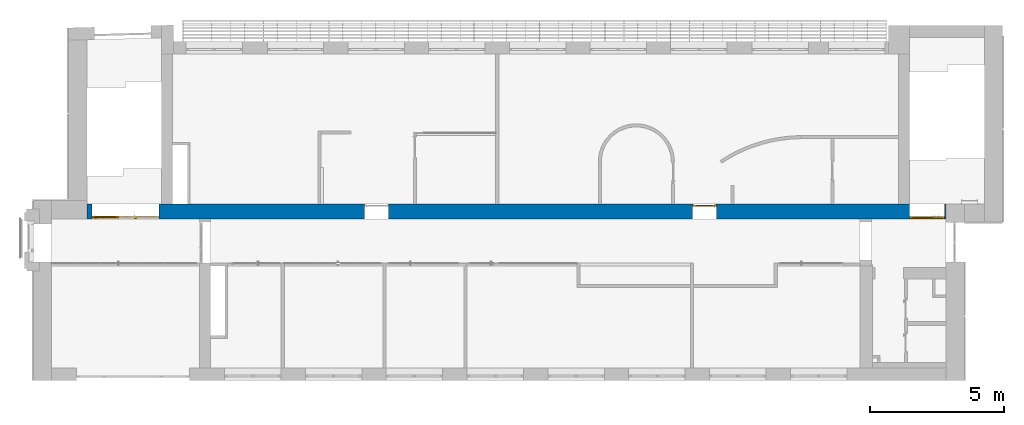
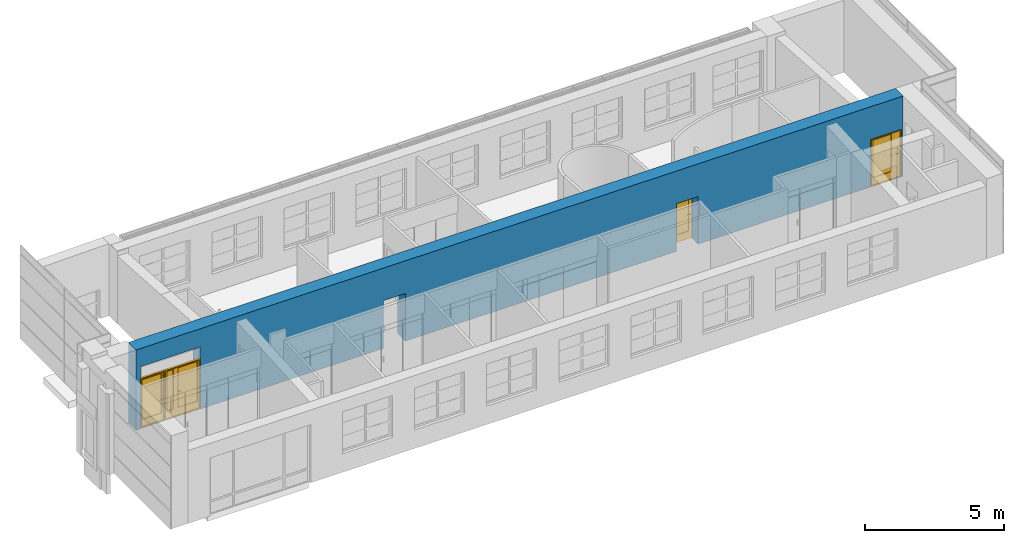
# One storey, part 31 of 46: 4 doors, 1 wall, 6 openings.
"""IFC2X3 building model written with IfcOpenShell, lengths in millimetres."""

from ifc_helpers import new_model, entity, si_unit, converted_unit, derived_unit, direction, frame, frame_2d, origin, place, context, subcontext, project, spatial, rectangle, extrude, faceted_brep, source, transform, mapped, material, material_list, layer, layer_set, layer_usage, type_object, type_shapes, element, fill, save


model = new_model("IFC2X3")

# Units and contexts
model_context = context("Model", 3, precision=0.01, world=origin(), true_north=direction((6.12303176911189e-17, 1.0)))
body_context = subcontext(model_context, "Body", "Model", "MODEL_VIEW")
ifc_project = project(units=[si_unit("LENGTHUNIT", "METRE", prefix="MILLI"), si_unit("AREAUNIT", "SQUARE_METRE"), si_unit("VOLUMEUNIT", "CUBIC_METRE"), converted_unit("PLANEANGLEUNIT", "DEGREE", entity("IfcRatioMeasure", 0.0174532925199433), si_unit("PLANEANGLEUNIT", "RADIAN"), dimensions=[0, 0, 0, 0, 0, 0, 0]), si_unit("MASSUNIT", "GRAM", prefix="KILO"), derived_unit("MASSDENSITYUNIT", [(si_unit("MASSUNIT", "GRAM", prefix="KILO"), 1), (si_unit("LENGTHUNIT", "METRE"), -3)]), si_unit("TIMEUNIT", "SECOND"), si_unit("FREQUENCYUNIT", "HERTZ"), si_unit("THERMODYNAMICTEMPERATUREUNIT", "DEGREE_CELSIUS"), derived_unit("THERMALTRANSMITTANCEUNIT", [(si_unit("MASSUNIT", "GRAM", prefix="KILO"), 1), (si_unit("THERMODYNAMICTEMPERATUREUNIT", "KELVIN"), -1), (si_unit("TIMEUNIT", "SECOND"), -3)]), derived_unit("VOLUMETRICFLOWRATEUNIT", [(si_unit("LENGTHUNIT", "METRE"), 3), (si_unit("TIMEUNIT", "SECOND"), -1)]), si_unit("ELECTRICCURRENTUNIT", "AMPERE"), si_unit("ELECTRICVOLTAGEUNIT", "VOLT"), si_unit("POWERUNIT", "WATT"), si_unit("FORCEUNIT", "NEWTON", prefix="KILO"), si_unit("ILLUMINANCEUNIT", "LUX"), si_unit("LUMINOUSFLUXUNIT", "LUMEN"), si_unit("LUMINOUSINTENSITYUNIT", "CANDELA"), derived_unit("USERDEFINED", [(si_unit("MASSUNIT", "GRAM", prefix="KILO"), -1), (si_unit("LENGTHUNIT", "METRE"), -2), (si_unit("TIMEUNIT", "SECOND"), 3), (si_unit("LUMINOUSFLUXUNIT", "LUMEN"), 1)]), derived_unit("LINEARVELOCITYUNIT", [(si_unit("LENGTHUNIT", "METRE"), 1), (si_unit("TIMEUNIT", "SECOND"), -1)]), si_unit("PRESSUREUNIT", "PASCAL"), derived_unit("USERDEFINED", [(si_unit("LENGTHUNIT", "METRE"), -2), (si_unit("MASSUNIT", "GRAM", prefix="KILO"), 1), (si_unit("TIMEUNIT", "SECOND"), -2)])], contexts=[model_context])

# Site, building, storey
site_placement = place(None, frame((-151.875543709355, 2715.0, 0.0)))
site = spatial("IfcSite", under=ifc_project, at=site_placement, Name="Surface", CompositionType="ELEMENT")
building_placement = place(site_placement, origin())
building = spatial("IfcBuilding", under=site, at=building_placement, CompositionType="ELEMENT")
storey_placement = place(building_placement, frame((0.0, 0.0, 10060.0)))
storey = spatial("IfcBuildingStorey", under=building, at=storey_placement, Name="4 korrus", CompositionType="ELEMENT", Elevation=10060.0000000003)

# Wall, openings, doors
ifc_material_1 = material(Name="__Kips GN13_tava")
ifc_layer_1 = layer(ifc_material_1, 20.0)
ifc_material_2 = material(Name="Masonry - Brick")
ifc_layer_2 = layer(ifc_material_2, 510.0)
ifc_layer_3 = layer(ifc_material_1, 20.0)
ifc_layer_set = layer_set([ifc_layer_1, ifc_layer_2, ifc_layer_3], Name="Basic Wall:SS-1")
ifc_layer_usage = layer_usage(ifc_layer_set, "AXIS2", "POSITIVE", -275.0)
wall_type = type_object("IfcWallType", Name="Basic Wall:SS-1", PredefinedType="STANDARD", material=ifc_layer_set)
wall_placement = place(storey_placement, frame((1770.0, 6285.0, 0.0)))
wall = element("IfcWallStandardCase", 1, at=wall_placement, inside=storey, type_object=wall_type, material=ifc_layer_usage, Name="SEIN - 002", ObjectType="Basic Wall:SS-1", context=body_context, shape_type="SweptSolid", body=[
    extrude(rectangle(XDim=31971.6162682, YDim=550.000000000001, at=frame_2d((15985.8081341, 0.0), x_axis=(-1.0, 0.0))), origin(), (0.0, 0.0, 1.0), 3540.0),
])
opening_1_placement = place(wall_placement, frame((23427.3743763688, 275.0, 0.0)))
opening_1 = element("IfcOpeningElement", 2, at=opening_1_placement, cuts=wall, Name="Ühepoolsed:SU-02.:1", ObjectType="Opening", context=body_context, shape_type="SweptSolid", body=[
    extrude(rectangle(XDim=2099.99999999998, YDim=900.0, at=frame_2d((1049.99999999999, 450.0), x_axis=(1.0, 0.0))), frame((0.0, 0.0, 0.0), z_axis=(0.0, -1.0, 0.0), x_axis=(0.0, 0.0, 1.0)), (0.0, 0.0, 1.0), 550.0),
])
opening_2_placement = place(wall_placement, frame((30602.6162682, -275.0, 0.0)))
opening_2 = element("IfcOpeningElement", 3, at=opening_2_placement, cuts=wall, Name="Kahepoolsed:SU-11:1", ObjectType="Opening", context=body_context, shape_type="SweptSolid", body=[
    extrude(rectangle(XDim=2099.99999999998, YDim=1300.0, at=frame_2d((1049.99999999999, 650.0), x_axis=(1.0, 0.0))), frame((0.0, 0.0, 0.0), z_axis=(0.0, 1.0, 0.0), x_axis=(0.0, 0.0, 1.0)), (0.0, 0.0, 1.0), 550.0),
])
opening_3_placement = place(wall_placement, frame((11222.6489830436, 275.0, 0.0)))
element("IfcOpeningElement", 4, at=opening_3_placement, cuts=wall, Name="Ühepoolsed:SU-02:1", ObjectType="Opening", context=body_context, shape_type="SweptSolid", body=[
    extrude(rectangle(XDim=2099.99999999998, YDim=900.0, at=frame_2d((1049.99999999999, 449.999999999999), x_axis=(1.0, 0.0))), frame((0.0, 0.0, 0.0), z_axis=(0.0, -1.0, 0.0), x_axis=(0.0, 0.0, 1.0)), (0.0, 0.0, 1.0), 550.0),
])
opening_4_placement = place(wall_placement, frame((188.767567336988, -275.0, 2200.0)))
element("IfcOpeningElement", 5, at=opening_4_placement, cuts=wall, Name="Ühepoolsed:SU17_ülemine:1", ObjectType="Opening", context=body_context, shape_type="SweptSolid", body=[
    extrude(rectangle(XDim=539.999999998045, YDim=2500.0, at=frame_2d((269.999999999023, 1250.0), x_axis=(1.0, 0.0))), frame((0.0, 0.0, 0.0), z_axis=(0.0, 1.0, 0.0), x_axis=(0.0, 0.0, 1.0)), (0.0, 0.0, 1.0), 550.0),
])
opening_5_placement = place(wall_placement, frame((1188.76756733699, -275.0, 0.0)))
opening_5 = element("IfcOpeningElement", 6, at=opening_5_placement, cuts=wall, Name="Kahepoolsed:SU-17:1", ObjectType="Opening", context=body_context, shape_type="SweptSolid", body=[
    extrude(rectangle(XDim=2199.99999999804, YDim=1500.0, at=frame_2d((1099.99999999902, 750.0), x_axis=(1.0, 0.0))), frame((0.0, 0.0, 0.0), z_axis=(0.0, 1.0, 0.0), x_axis=(0.0, 0.0, 1.0)), (0.0, 0.0, 1.0), 550.0),
])
opening_6_placement = place(wall_placement, frame((188.767567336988, -275.0, 0.0)))
opening_6 = element("IfcOpeningElement", 7, at=opening_6_placement, cuts=wall, Name="Aken ukse kohal:SU-1500_aken:1", ObjectType="Opening", context=body_context, shape_type="SweptSolid", body=[
    extrude(rectangle(XDim=2199.99999999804, YDim=1000.0, at=frame_2d((1099.99999999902, 500.0), x_axis=(1.0, 0.0))), frame((0.0, 0.0, 0.0), z_axis=(0.0, 1.0, 0.0), x_axis=(0.0, 0.0, 1.0)), (0.0, 0.0, 1.0), 550.0),
])
ifc_material_3 = material(Name="_Alumiiniumprofiil - must")
ifc_material_4 = material(Name="__Uks_hele tamm")
ifc_material_5 = material(Name="EP Tavallinen lasi")
ifc_material_list_1 = material_list([ifc_material_3, ifc_material_4, ifc_material_5])
ifc_material_list_2 = material_list([ifc_material_3, ifc_material_4, ifc_material_5])
door_style_1 = type_object("IfcDoorStyle", Name="SU-11", ConstructionType="NOTDEFINED", OperationType="FOLDING_TO_RIGHT", ParameterTakesPrecedence=False, Sizeable=False, material=ifc_material_list_2)
shared_shape_1 = source(origin(), body_context, "Body", "Brep", [
    faceted_brep([(912.5, 0.0, 1100.0), (817.5, 0.0, 1100.0), (817.5, -5.0, 1100.0), (937.5, -5.0, 1100.0), (937.5, 38.0, 1100.0), (912.5, 38.0, 1100.0), (912.5, 0.0, 1075.0), (912.5, 38.0, 1075.0), (937.5, 38.0, 1075.0), (937.5, -5.0, 1075.0), (817.5, -5.0, 1075.0), (817.5, 0.0, 1075.0)], [[[0, 1, 2, 3, 4, 5]], [[6, 7, 8, 9, 10, 11]], [[5, 7, 6, 0]], [[4, 8, 7, 5]], [[3, 9, 8, 4]], [[2, 10, 9, 3]], [[1, 11, 10, 2]], [[0, 6, 11, 1]]]),
    faceted_brep([(900.0, 38.0, 1125.0), (950.0, 38.0, 1125.0), (950.0, 40.0, 1125.0), (900.0, 40.0, 1125.0), (900.0, 38.0, 1005.0), (900.0, 40.0, 1005.0), (950.0, 40.0, 1005.0), (950.0, 38.0, 1005.0)], [[[0, 1, 2, 3]], [[4, 5, 6, 7]], [[3, 5, 4, 0]], [[2, 6, 5, 3]], [[1, 7, 6, 2]], [[0, 4, 7, 1]]]),
    faceted_brep([(912.499999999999, 130.0, 1100.0), (912.499999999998, 92.0, 1100.0), (937.499999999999, 92.0, 1100.0), (937.499999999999, 135.0, 1100.0), (817.499999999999, 135.0, 1100.0), (817.499999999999, 130.0, 1100.0), (912.499999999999, 130.0, 1075.0), (817.499999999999, 130.0, 1075.0), (817.499999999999, 135.0, 1075.0), (937.499999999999, 135.0, 1075.0), (937.499999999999, 92.0, 1075.0), (912.499999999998, 92.0, 1075.0)], [[[0, 1, 2, 3, 4, 5]], [[6, 7, 8, 9, 10, 11]], [[1, 0, 6, 11]], [[2, 1, 11, 10]], [[3, 2, 10, 9]], [[4, 3, 9, 8]], [[5, 4, 8, 7]], [[0, 5, 7, 6]]]),
    faceted_brep([(900.0, 92.0, 1125.0), (900.0, 90.0, 1125.0), (950.0, 90.0, 1125.0), (950.0, 92.0, 1125.0), (900.0, 92.0, 1005.0), (950.0, 92.0, 1005.0), (950.0, 90.0, 1005.0), (900.0, 90.0, 1005.0)], [[[0, 1, 2, 3]], [[4, 5, 6, 7]], [[1, 0, 4, 7]], [[2, 1, 7, 6]], [[3, 2, 6, 5]], [[0, 3, 5, 4]]]),
    faceted_brep([(1087.5, 0.0, 1100.0), (1087.5, 38.0, 1100.0), (1062.5, 38.0, 1100.0), (1062.5, -5.0, 1100.0), (1182.5, -5.0, 1100.0), (1182.5, 0.0, 1100.0), (1087.5, 0.0, 1075.0), (1182.5, 0.0, 1075.0), (1182.5, -5.0, 1075.0), (1062.5, -5.0, 1075.0), (1062.5, 38.0, 1075.0), (1087.5, 38.0, 1075.0)], [[[0, 1, 2, 3, 4, 5]], [[6, 7, 8, 9, 10, 11]], [[1, 0, 6, 11]], [[2, 1, 11, 10]], [[3, 2, 10, 9]], [[4, 3, 9, 8]], [[5, 4, 8, 7]], [[0, 5, 7, 6]]]),
    faceted_brep([(1100.0, 38.0, 1125.0), (1100.0, 40.0, 1125.0), (1050.0, 40.0, 1125.0), (1050.0, 38.0, 1125.0), (1100.0, 38.0, 1005.0), (1050.0, 38.0, 1005.0), (1050.0, 40.0, 1005.0), (1100.0, 40.0, 1005.0)], [[[0, 1, 2, 3]], [[4, 5, 6, 7]], [[1, 0, 4, 7]], [[2, 1, 7, 6]], [[3, 2, 6, 5]], [[0, 3, 5, 4]]]),
    faceted_brep([(1087.5, 130.0, 1100.0), (1182.5, 130.0, 1100.0), (1182.5, 135.0, 1100.0), (1062.5, 135.0, 1100.0), (1062.5, 92.0, 1100.0), (1087.5, 92.0, 1100.0), (1087.5, 130.0, 1075.0), (1087.5, 92.0, 1075.0), (1062.5, 92.0, 1075.0), (1062.5, 135.0, 1075.0), (1182.5, 135.0, 1075.0), (1182.5, 130.0, 1075.0)], [[[0, 1, 2, 3, 4, 5]], [[6, 7, 8, 9, 10, 11]], [[5, 7, 6, 0]], [[4, 8, 7, 5]], [[3, 9, 8, 4]], [[2, 10, 9, 3]], [[1, 11, 10, 2]], [[0, 6, 11, 1]]]),
    faceted_brep([(1100.0, 92.0, 1125.0), (1050.0, 92.0, 1125.0), (1050.0, 90.0, 1125.0), (1100.0, 90.0, 1125.0), (1100.0, 92.0, 1005.0), (1100.0, 90.0, 1005.0), (1050.0, 90.0, 1005.0), (1050.0, 92.0, 1005.0)], [[[0, 1, 2, 3]], [[4, 5, 6, 7]], [[3, 5, 4, 0]], [[2, 6, 5, 3]], [[1, 7, 6, 2]], [[0, 4, 7, 1]]]),
    faceted_brep([(1260.0, 0.0, 30.0), (1260.0, 0.0, 0.0), (1260.0, 40.0, 0.0), (1260.0, 40.0, 20.0), (1260.0, 40.0, 30.0), (40.0, 0.0, 30.0), (40.0, 40.0, 30.0), (40.0, 40.0, 20.0), (40.0, 40.0, 0.0), (40.0, 0.0, 0.0), (25.0, 40.0, 0.0), (25.0, 90.0, 0.0), (1275.0, 90.0, 0.0), (1275.0, 40.0, 0.0), (1275.0, 90.0, 20.0), (1275.0, 40.0, 20.0), (25.0, 90.0, 20.0), (25.0, 40.0, 20.0)], [[[0, 1, 2, 3, 4]], [[5, 6, 7, 8, 9]], [[1, 0, 5, 9]], [[2, 1, 9, 8, 10, 11, 12, 13]], [[6, 4, 3, 7]], [[0, 4, 6, 5]], [[14, 15, 13, 12]], [[16, 11, 10, 17]], [[15, 14, 16, 17, 7, 3]], [[13, 15, 3, 2]], [[14, 12, 11, 16]], [[17, 10, 8, 7]]]),
    faceted_brep([(1300.0, 0.0, 0.0), (1260.0, 0.0, 0.0), (1260.0, 40.0, 0.0), (1275.0, 40.0, 0.0), (1275.0, 90.0, 0.0), (1300.0, 90.0, 0.0), (1300.0, 0.0, 2100.0), (0.0, 0.0, 2100.0), (0.0, 0.0, 0.0), (40.0, 0.0, 0.0), (40.0, 0.0, 2060.0), (1260.0, 0.0, 2060.0), (1260.0, 40.0, 2060.0), (40.0, 40.0, 2060.0), (40.0, 40.0, 0.0), (25.0, 40.0, 0.0), (25.0, 40.0, 2075.0), (1275.0, 40.0, 2075.0), (1275.0, 90.0, 2075.0), (25.0, 90.0, 2075.0), (25.0, 90.0, 0.0), (0.0, 90.0, 0.0), (0.0, 90.0, 2100.0), (1300.0, 90.0, 2100.0)], [[[0, 1, 2, 3, 4, 5]], [[1, 0, 6, 7, 8, 9, 10, 11]], [[2, 1, 11, 12]], [[3, 2, 12, 13, 14, 15, 16, 17]], [[4, 3, 17, 18]], [[5, 4, 18, 19, 20, 21, 22, 23]], [[0, 5, 23, 6]], [[8, 7, 22, 21]], [[9, 8, 21, 20, 15, 14]], [[10, 9, 14, 13]], [[16, 15, 20, 19]], [[11, 10, 13, 12]], [[17, 16, 19, 18]], [[7, 6, 23, 22]]]),
    faceted_brep([(1149.0, 90.0, 2000.0), (1149.0, 40.0, 2000.0), (1149.0, 40.0, 1990.0), (1149.0, 90.0, 1990.0), (1150.0, 40.0, 1990.0), (1150.0, 90.0, 1990.0), (1150.0, 40.0, 2000.0), (1150.0, 90.0, 2000.0), (1275.0, 40.0, 2075.0), (1000.0, 40.0, 2075.0), (1000.0, 40.0, 20.0), (1275.0, 40.0, 20.0), (1275.0, 90.0, 2075.0), (1275.0, 90.0, 20.0), (1000.0, 90.0, 20.0), (1000.0, 90.0, 2075.0)], [[[0, 1, 2, 3]], [[3, 2, 4, 5]], [[5, 4, 6, 7]], [[1, 0, 7, 6]], [[2, 1, 6, 4], [8, 9, 10, 11]], [[0, 3, 5, 7], [12, 13, 14, 15]], [[9, 8, 12, 15]], [[10, 9, 15, 14]], [[11, 10, 14, 13]], [[8, 11, 13, 12]]], outer=[[True], [True], [True], [True], [False, True], [False, True], [True], [True], [True], [True]]),
    faceted_brep([(125.0, 55.0, 350.0), (900.0, 55.0, 350.0), (900.0, 55.0, 2000.0), (125.0, 55.0, 2000.0), (125.0, 75.0, 350.0), (125.0, 75.0, 2000.0), (900.0, 75.0, 2000.0), (900.0, 75.0, 350.0)], [[[0, 1, 2, 3]], [[4, 5, 6, 7]], [[1, 0, 4, 7]], [[2, 1, 7, 6]], [[3, 2, 6, 5]], [[0, 3, 5, 4]]]),
    faceted_brep([(1000.0, 40.0, 2075.0), (25.0, 40.0, 2075.0), (25.0, 40.0, 20.0), (1000.0, 40.0, 20.0), (125.0, 40.0, 350.0), (125.0, 40.0, 2000.0), (900.0, 40.0, 2000.0), (900.0, 40.0, 350.0), (1000.0, 90.0, 2075.0), (1000.0, 90.0, 20.0), (25.0, 90.0, 20.0), (25.0, 90.0, 2075.0), (125.0, 90.0, 2000.0), (125.0, 90.0, 350.0), (900.0, 90.0, 350.0), (900.0, 90.0, 2000.0)], [[[0, 1, 2, 3], [4, 5, 6, 7]], [[8, 9, 10, 11], [12, 13, 14, 15]], [[1, 0, 8, 11]], [[2, 1, 11, 10]], [[3, 2, 10, 9]], [[0, 3, 9, 8]], [[12, 5, 4, 13]], [[13, 4, 7, 14]], [[14, 7, 6, 15]], [[5, 12, 15, 6]]]),
])
type_shapes(door_style_1, [shared_shape_1])
door_1_placement = place(opening_2_placement, origin())
door_1 = element("IfcDoor", 8, at=door_1_placement, inside=storey, type_object=door_style_1, material=ifc_material_list_1, Name="Kahepoolsed:SU-11", ObjectType="SU-11", OverallHeight=2099.99999999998, OverallWidth=1300.0, context=body_context, shape_type="MappedRepresentation", body=[
    mapped(shared_shape_1, transform((0.0, 0.0, 0.0), scale=1.0)),
])
fill(opening_2, door_1)
ifc_material_6 = material(Name="Glass")
ifc_material_list_3 = material_list([ifc_material_3, ifc_material_4, ifc_material_6])
ifc_material_list_4 = material_list([ifc_material_3, ifc_material_4, ifc_material_6])
door_style_2 = type_object("IfcDoorStyle", Name="SU-02.", ConstructionType="NOTDEFINED", OperationType="FOLDING_TO_LEFT", ParameterTakesPrecedence=False, Sizeable=False, material=ifc_material_list_4)
shared_shape_2 = source(origin(), body_context, "Body", "Brep", [
    faceted_brep([(100.0, 0.0, 1112.5), (100.0, 38.0, 1112.5), (75.0, 38.0, 1112.5), (75.0, -5.0, 1112.5), (195.0, -5.0, 1112.5), (195.0, 0.0, 1112.5), (100.0, 0.0, 1087.5), (195.0, 0.0, 1087.5), (195.0, -5.0, 1087.5), (75.0, -5.0, 1087.5), (75.0, 38.0, 1087.5), (100.0, 38.0, 1087.5)], [[[0, 1, 2, 3, 4, 5]], [[6, 7, 8, 9, 10, 11]], [[1, 0, 6, 11]], [[2, 1, 11, 10]], [[3, 2, 10, 9]], [[4, 3, 9, 8]], [[5, 4, 8, 7]], [[0, 5, 7, 6]]]),
    faceted_brep([(112.500000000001, 38.0, 1137.5), (112.500000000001, 40.0, 1137.5), (62.5000000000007, 40.0, 1137.5), (62.5000000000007, 38.0, 1137.5), (112.500000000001, 38.0, 1017.5), (62.5000000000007, 38.0, 1017.5), (62.5000000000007, 40.0, 1017.5), (112.500000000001, 40.0, 1017.5)], [[[0, 1, 2, 3]], [[4, 5, 6, 7]], [[1, 0, 4, 7]], [[2, 1, 7, 6]], [[3, 2, 6, 5]], [[0, 3, 5, 4]]]),
    faceted_brep([(100.0, 130.0, 1112.5), (195.0, 130.0, 1112.5), (195.0, 135.0, 1112.5), (75.0, 135.0, 1112.5), (75.0, 92.0, 1112.5), (100.0, 92.0, 1112.5), (100.0, 130.0, 1087.5), (100.0, 92.0, 1087.5), (75.0, 92.0, 1087.5), (75.0, 135.0, 1087.5), (195.0, 135.0, 1087.5), (195.0, 130.0, 1087.5)], [[[0, 1, 2, 3, 4, 5]], [[6, 7, 8, 9, 10, 11]], [[5, 7, 6, 0]], [[4, 8, 7, 5]], [[3, 9, 8, 4]], [[2, 10, 9, 3]], [[1, 11, 10, 2]], [[0, 6, 11, 1]]]),
    faceted_brep([(112.500000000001, 92.0, 1137.5), (62.5000000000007, 92.0, 1137.5), (62.5000000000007, 90.0, 1137.5), (112.500000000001, 90.0, 1137.5), (112.500000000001, 92.0, 1017.5), (112.500000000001, 90.0, 1017.5), (62.5000000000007, 90.0, 1017.5), (62.5000000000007, 92.0, 1017.5)], [[[0, 1, 2, 3]], [[4, 5, 6, 7]], [[3, 5, 4, 0]], [[2, 6, 5, 3]], [[1, 7, 6, 2]], [[0, 4, 7, 1]]]),
    faceted_brep([(900.0, 0.0, 0.0), (860.0, 0.0, 0.0), (860.0, 40.0, 0.0), (875.0, 40.0, 0.0), (875.0, 90.0, 0.0), (900.0, 90.0, 0.0), (900.0, 0.0, 2100.0), (0.0, 0.0, 2100.0), (0.0, 0.0, 0.0), (40.0, 0.0, 0.0), (40.0, 0.0, 2060.0), (860.0, 0.0, 2060.0), (860.0, 40.0, 2060.0), (40.0, 40.0, 2060.0), (40.0, 40.0, 0.0), (25.0, 40.0, 0.0), (25.0, 40.0, 2075.0), (875.0, 40.0, 2075.0), (875.0, 90.0, 2075.0), (25.0, 90.0, 2075.0), (25.0, 90.0, 0.0), (0.0, 90.0, 0.0), (0.0, 90.0, 2100.0), (900.0, 90.0, 2100.0)], [[[0, 1, 2, 3, 4, 5]], [[1, 0, 6, 7, 8, 9, 10, 11]], [[2, 1, 11, 12]], [[3, 2, 12, 13, 14, 15, 16, 17]], [[4, 3, 17, 18]], [[5, 4, 18, 19, 20, 21, 22, 23]], [[0, 5, 23, 6]], [[8, 7, 22, 21]], [[9, 8, 21, 20, 15, 14]], [[10, 9, 14, 13]], [[16, 15, 20, 19]], [[11, 10, 13, 12]], [[17, 16, 19, 18]], [[7, 6, 23, 22]]]),
    faceted_brep([(760.0, 55.0, 350.0), (760.0, 55.0, 1960.0), (140.0, 55.0, 1960.0), (140.0, 55.0, 350.0), (760.0, 75.0, 350.0), (140.0, 75.0, 350.0), (140.0, 75.0, 1960.0), (760.0, 75.0, 1960.0)], [[[0, 1, 2, 3]], [[4, 5, 6, 7]], [[1, 0, 4, 7]], [[2, 1, 7, 6]], [[3, 2, 6, 5]], [[0, 3, 5, 4]]]),
    faceted_brep([(875.0, 40.0, 20.0), (875.0, 40.0, 2075.0), (25.0, 40.0, 2075.0), (25.0, 40.0, 20.0), (140.0, 40.0, 350.0), (140.0, 40.0, 1960.0), (760.0, 40.0, 1960.0), (760.0, 40.0, 350.0), (875.0, 90.0, 20.0), (25.0, 90.0, 20.0), (25.0, 90.0, 2075.0), (875.0, 90.0, 2075.0), (140.0, 90.0, 1960.0), (140.0, 90.0, 350.0), (760.0, 90.0, 350.0), (760.0, 90.0, 1960.0)], [[[0, 1, 2, 3], [4, 5, 6, 7]], [[8, 9, 10, 11], [12, 13, 14, 15]], [[1, 0, 8, 11]], [[2, 1, 11, 10]], [[3, 2, 10, 9]], [[0, 3, 9, 8]], [[12, 5, 4, 13]], [[13, 4, 7, 14]], [[14, 7, 6, 15]], [[5, 12, 15, 6]]]),
])
type_shapes(door_style_2, [shared_shape_2])
door_2_placement = place(opening_1_placement, frame((0.0, 0.0, 0.0), z_axis=(0.0, 0.0, 1.0), x_axis=(-1.0, 0.0, 0.0)))
door_2 = element("IfcDoor", 9, at=door_2_placement, inside=storey, type_object=door_style_2, material=ifc_material_list_3, Name="Ühepoolsed:SU-02.", ObjectType="SU-02.", OverallHeight=2099.99999999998, OverallWidth=899.999999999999, context=body_context, shape_type="MappedRepresentation", body=[
    mapped(shared_shape_2, transform((0.0, 0.0, 0.0), scale=1.0)),
])
fill(opening_1, door_2)
ifc_material_list_5 = material_list([ifc_material_4, ifc_material_5])
ifc_material_list_6 = material_list([ifc_material_4, ifc_material_5])
door_style_3 = type_object("IfcDoorStyle", Name="SU-1500_aken", ConstructionType="NOTDEFINED", OperationType="SINGLE_SWING_RIGHT", ParameterTakesPrecedence=False, Sizeable=False, material=ifc_material_list_6)
shared_shape_3 = source(origin(), body_context, "Body", "Brep", [
    faceted_brep([(960.0, 50.0, 40.0), (960.0, 10.0, 40.0), (960.0, 10.0, 2160.0), (960.0, 50.0, 2160.0), (975.0, 100.0, 25.0), (975.0, 50.0, 25.0), (975.0, 50.0, 2175.0), (975.0, 100.0, 2175.0), (1000.0, 10.0, 0.0), (1000.0, 100.0, 0.0), (1000.0, 100.0, 2200.0), (1000.0, 10.0, 2200.0), (40.0, 10.0, 2160.0), (40.0, 50.0, 2160.0), (25.0, 50.0, 2175.0), (25.0, 100.0, 2175.0), (0.0, 100.0, 2200.0), (0.0, 10.0, 2200.0), (40.0, 10.0, 40.0), (40.0, 50.0, 40.0), (25.0, 50.0, 25.0), (25.0, 100.0, 25.0), (0.0, 100.0, 0.0), (0.0, 10.0, 0.0)], [[[0, 1, 2, 3]], [[4, 5, 6, 7]], [[8, 9, 10, 11]], [[3, 2, 12, 13]], [[7, 6, 14, 15]], [[11, 10, 16, 17]], [[13, 12, 18, 19]], [[15, 14, 20, 21]], [[17, 16, 22, 23]], [[2, 1, 18, 12], [8, 11, 17, 23]], [[1, 0, 19, 18]], [[0, 3, 13, 19], [6, 5, 20, 14]], [[5, 4, 21, 20]], [[4, 7, 15, 21], [10, 9, 22, 16]], [[9, 8, 23, 22]]], outer=[[True], [True], [True], [True], [True], [True], [True], [True], [True], [False, True], [True], [False, True], [True], [False, True], [True]]),
    faceted_brep([(900.0, 65.0, 350.0), (900.0, 65.0, 2100.0), (100.0, 65.0, 2100.0), (100.0, 65.0, 350.0), (900.0, 85.0, 350.0), (100.0, 85.0, 350.0), (100.0, 85.0, 2100.0), (900.0, 85.0, 2100.0)], [[[0, 1, 2, 3]], [[4, 5, 6, 7]], [[1, 0, 4, 7]], [[2, 1, 7, 6]], [[3, 2, 6, 5]], [[0, 3, 5, 4]]]),
    faceted_brep([(975.0, 50.0, 20.0), (975.0, 50.0, 2175.0), (25.0, 50.0, 2175.0), (25.0, 50.0, 20.0), (100.0, 50.0, 350.0), (100.0, 50.0, 2100.0), (900.0, 50.0, 2100.0), (900.0, 50.0, 350.0), (975.0, 100.0, 20.0), (25.0, 100.0, 20.0), (25.0, 100.0, 2175.0), (975.0, 100.0, 2175.0), (100.0, 100.0, 2100.0), (100.0, 100.0, 350.0), (900.0, 100.0, 350.0), (900.0, 100.0, 2100.0)], [[[0, 1, 2, 3], [4, 5, 6, 7]], [[8, 9, 10, 11], [12, 13, 14, 15]], [[1, 0, 8, 11]], [[2, 1, 11, 10]], [[3, 2, 10, 9]], [[0, 3, 9, 8]], [[12, 5, 4, 13]], [[13, 4, 7, 14]], [[14, 7, 6, 15]], [[5, 12, 15, 6]]]),
])
type_shapes(door_style_3, [shared_shape_3])
door_3_placement = place(opening_6_placement, origin())
door_3 = element("IfcDoor", 10, at=door_3_placement, inside=storey, type_object=door_style_3, material=ifc_material_list_5, Name="Aken ukse kohal:SU-1500_aken", ObjectType="SU-1500_aken", OverallHeight=2199.99999999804, OverallWidth=1000.0, context=body_context, shape_type="MappedRepresentation", body=[
    mapped(shared_shape_3, transform((0.0, 0.0, 0.0), scale=1.0)),
])
fill(opening_6, door_3)
ifc_material_list_7 = material_list([ifc_material_3, ifc_material_4, ifc_material_5])
ifc_material_list_8 = material_list([ifc_material_3, ifc_material_4, ifc_material_5])
door_style_4 = type_object("IfcDoorStyle", Name="SU-17", ConstructionType="NOTDEFINED", OperationType="FOLDING_TO_RIGHT", ParameterTakesPrecedence=False, Sizeable=False, material=ifc_material_list_8)
shared_shape_4 = source(origin(), body_context, "Body", "Brep", [
    faceted_brep([(587.499999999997, 10.0, 1100.0), (587.499999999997, 48.0, 1100.0), (562.499999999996, 48.0, 1100.0), (562.499999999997, 5.0, 1100.0), (682.499999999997, 5.0, 1100.0), (682.499999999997, 10.0, 1100.0), (587.499999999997, 10.0, 1075.0), (682.499999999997, 10.0, 1075.0), (682.499999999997, 5.0, 1075.0), (562.499999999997, 5.0, 1075.0), (562.499999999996, 48.0, 1075.0), (587.499999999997, 48.0, 1075.0)], [[[0, 1, 2, 3, 4, 5]], [[6, 7, 8, 9, 10, 11]], [[1, 0, 6, 11]], [[2, 1, 11, 10]], [[3, 2, 10, 9]], [[4, 3, 9, 8]], [[5, 4, 8, 7]], [[0, 5, 7, 6]]]),
    faceted_brep([(600.0, 48.0, 1125.0), (600.0, 50.0, 1125.0), (550.0, 50.0, 1125.0), (550.0, 48.0, 1125.0), (600.0, 48.0, 1005.0), (550.0, 48.0, 1005.0), (550.0, 50.0, 1005.0), (600.0, 50.0, 1005.0)], [[[0, 1, 2, 3]], [[4, 5, 6, 7]], [[1, 0, 4, 7]], [[2, 1, 7, 6]], [[3, 2, 6, 5]], [[0, 3, 5, 4]]]),
    faceted_brep([(587.499999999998, 140.0, 1100.0), (682.499999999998, 140.0, 1100.0), (682.499999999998, 145.0, 1100.0), (562.499999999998, 145.0, 1100.0), (562.499999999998, 102.0, 1100.0), (587.499999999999, 102.0, 1100.0), (587.499999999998, 140.0, 1075.0), (587.499999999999, 102.0, 1075.0), (562.499999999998, 102.0, 1075.0), (562.499999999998, 145.0, 1075.0), (682.499999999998, 145.0, 1075.0), (682.499999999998, 140.0, 1075.0)], [[[0, 1, 2, 3, 4, 5]], [[6, 7, 8, 9, 10, 11]], [[5, 7, 6, 0]], [[4, 8, 7, 5]], [[3, 9, 8, 4]], [[2, 10, 9, 3]], [[1, 11, 10, 2]], [[0, 6, 11, 1]]]),
    faceted_brep([(600.0, 102.0, 1125.0), (550.0, 102.0, 1125.0), (550.0, 100.0, 1125.0), (600.0, 100.0, 1125.0), (600.0, 102.0, 1005.0), (600.0, 100.0, 1005.0), (550.0, 100.0, 1005.0), (550.0, 102.0, 1005.0)], [[[0, 1, 2, 3]], [[4, 5, 6, 7]], [[3, 5, 4, 0]], [[2, 6, 5, 3]], [[1, 7, 6, 2]], [[0, 4, 7, 1]]]),
    faceted_brep([(1460.0, 10.0, 30.0), (1460.0, 10.0, 0.0), (1460.0, 50.0, 0.0), (1460.0, 50.0, 20.0), (1460.0, 50.0, 30.0), (40.0, 10.0, 30.0), (40.0, 50.0, 30.0), (40.0, 50.0, 20.0), (40.0, 50.0, 0.0), (40.0, 10.0, 0.0), (25.0, 50.0, 0.0), (25.0, 100.0, 0.0), (1475.0, 100.0, 0.0), (1475.0, 50.0, 0.0), (1475.0, 100.0, 20.0), (1475.0, 50.0, 20.0), (25.0, 100.0, 20.0), (25.0, 50.0, 20.0)], [[[0, 1, 2, 3, 4]], [[5, 6, 7, 8, 9]], [[1, 0, 5, 9]], [[2, 1, 9, 8, 10, 11, 12, 13]], [[6, 4, 3, 7]], [[0, 4, 6, 5]], [[14, 15, 13, 12]], [[16, 11, 10, 17]], [[15, 14, 16, 17, 7, 3]], [[13, 15, 3, 2]], [[14, 12, 11, 16]], [[17, 10, 8, 7]]]),
    faceted_brep([(1500.0, 10.0, 0.0), (1460.0, 10.0, 0.0), (1460.0, 50.0, 0.0), (1475.0, 50.0, 0.0), (1475.0, 100.0, 0.0), (1500.0, 100.0, 0.0), (1500.0, 10.0, 2200.0), (0.0, 10.0, 2200.0), (0.0, 10.0, 0.0), (40.0, 10.0, 0.0), (40.0, 10.0, 2160.0), (1460.0, 10.0, 2160.0), (1460.0, 50.0, 2160.0), (40.0, 50.0, 2160.0), (40.0, 50.0, 0.0), (25.0, 50.0, 0.0), (25.0, 50.0, 2175.0), (1475.0, 50.0, 2175.0), (1475.0, 100.0, 2175.0), (25.0, 100.0, 2175.0), (25.0, 100.0, 0.0), (0.0, 100.0, 0.0), (0.0, 100.0, 2200.0), (1500.0, 100.0, 2200.0)], [[[0, 1, 2, 3, 4, 5]], [[1, 0, 6, 7, 8, 9, 10, 11]], [[2, 1, 11, 12]], [[3, 2, 12, 13, 14, 15, 16, 17]], [[4, 3, 17, 18]], [[5, 4, 18, 19, 20, 21, 22, 23]], [[0, 5, 23, 6]], [[8, 7, 22, 21]], [[9, 8, 21, 20, 15, 14]], [[10, 9, 14, 13]], [[16, 15, 20, 19]], [[11, 10, 13, 12]], [[17, 16, 19, 18]], [[7, 6, 23, 22]]]),
    faceted_brep([(125.0, 65.0, 350.0), (400.0, 65.0, 350.0), (400.0, 65.0, 2100.0), (125.0, 65.0, 2100.0), (125.0, 85.0, 350.0), (125.0, 85.0, 2100.0), (400.0, 85.0, 2100.0), (400.0, 85.0, 350.0)], [[[0, 1, 2, 3]], [[4, 5, 6, 7]], [[1, 0, 4, 7]], [[2, 1, 7, 6]], [[3, 2, 6, 5]], [[0, 3, 5, 4]]]),
    faceted_brep([(600.0, 65.0, 350.0), (1400.0, 65.0, 350.0), (1400.0, 65.0, 2100.0), (600.0, 65.0, 2100.0), (600.0, 85.0, 350.0), (600.0, 85.0, 2100.0), (1400.0, 85.0, 2100.0), (1400.0, 85.0, 350.0)], [[[0, 1, 2, 3]], [[4, 5, 6, 7]], [[1, 0, 4, 7]], [[2, 1, 7, 6]], [[3, 2, 6, 5]], [[0, 3, 5, 4]]]),
    faceted_brep([(500.0, 50.0, 2175.0), (25.0, 50.0, 2175.0), (25.0, 50.0, 20.0), (500.0, 50.0, 20.0), (125.0, 50.0, 350.0), (125.0, 50.0, 2100.0), (400.0, 50.0, 2100.0), (400.0, 50.0, 350.0), (500.0, 100.0, 2175.0), (500.0, 100.0, 20.0), (25.0, 100.0, 20.0), (25.0, 100.0, 2175.0), (125.0, 100.0, 2100.0), (125.0, 100.0, 350.0), (400.0, 100.0, 350.0), (400.0, 100.0, 2100.0)], [[[0, 1, 2, 3], [4, 5, 6, 7]], [[8, 9, 10, 11], [12, 13, 14, 15]], [[1, 0, 8, 11]], [[2, 1, 11, 10]], [[3, 2, 10, 9]], [[0, 3, 9, 8]], [[12, 5, 4, 13]], [[13, 4, 7, 14]], [[14, 7, 6, 15]], [[5, 12, 15, 6]]]),
    faceted_brep([(500.0, 50.0, 2175.0), (500.0, 50.0, 20.0), (1475.0, 50.0, 20.0), (1475.0, 50.0, 2175.0), (600.0, 50.0, 350.0), (600.0, 50.0, 2100.0), (1400.0, 50.0, 2100.0), (1400.0, 50.0, 350.0), (500.0, 100.0, 2175.0), (1475.0, 100.0, 2175.0), (1475.0, 100.0, 20.0), (500.0, 100.0, 20.0), (600.0, 100.0, 2100.0), (600.0, 100.0, 350.0), (1400.0, 100.0, 350.0), (1400.0, 100.0, 2100.0)], [[[0, 1, 2, 3], [4, 5, 6, 7]], [[8, 9, 10, 11], [12, 13, 14, 15]], [[1, 0, 8, 11]], [[2, 1, 11, 10]], [[3, 2, 10, 9]], [[0, 3, 9, 8]], [[12, 5, 4, 13]], [[13, 4, 7, 14]], [[14, 7, 6, 15]], [[5, 12, 15, 6]]]),
])
type_shapes(door_style_4, [shared_shape_4])
door_4_placement = place(opening_5_placement, origin())
door_4 = element("IfcDoor", 11, at=door_4_placement, inside=storey, type_object=door_style_4, material=ifc_material_list_7, Name="Kahepoolsed:SU-17", ObjectType="SU-17", OverallHeight=2199.99999999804, OverallWidth=1500.0, context=body_context, shape_type="MappedRepresentation", body=[
    mapped(shared_shape_4, transform((0.0, 0.0, 0.0), scale=1.0)),
])
fill(opening_5, door_4)

save(model, "model.ifc")
